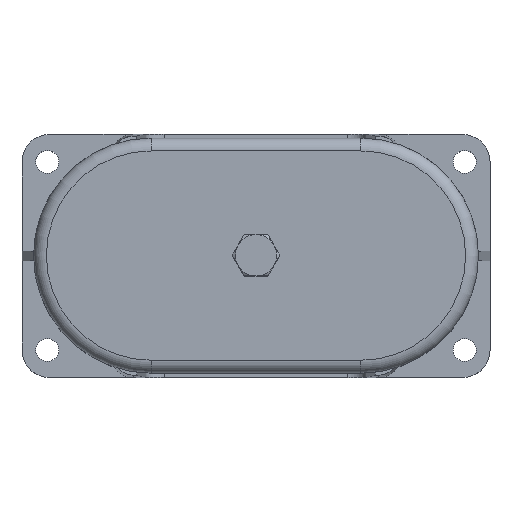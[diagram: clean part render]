
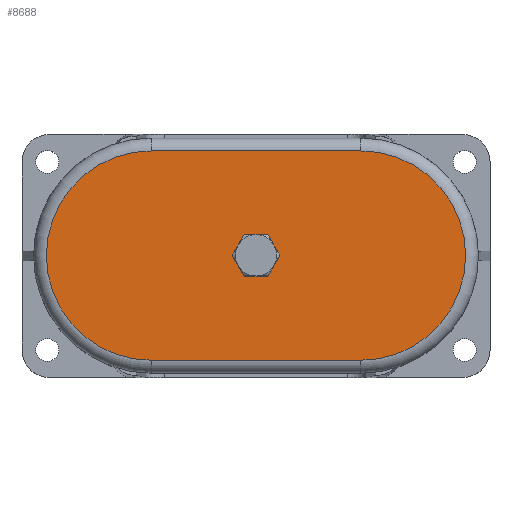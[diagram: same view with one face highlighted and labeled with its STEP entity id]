
A CAD part, top view. The second image highlights one B-rep face of the part: STEP entity #8688.
In plain terms, the highlighted planar face has unit normal (0, 0, 1).
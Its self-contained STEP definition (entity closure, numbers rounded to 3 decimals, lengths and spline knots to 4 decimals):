
#120=FACE_BOUND('',#1239,.T.);
#744=FACE_OUTER_BOUND('',#1238,.T.);
#1238=EDGE_LOOP('',(#5909,#5910,#5911,#5912));
#1239=EDGE_LOOP('',(#5913,#5914,#5915,#5916,#5917,#5918));
#1749=LINE('',#35098,#2417);
#1750=LINE('',#35101,#2418);
#2417=VECTOR('',#10152,5.7188);
#2418=VECTOR('',#10155,5.7188);
#3031=CIRCLE('',#9194,0.5625);
#3032=CIRCLE('',#9196,0.5625);
#3033=CIRCLE('',#9198,0.5625);
#3034=CIRCLE('',#9200,0.5625);
#3035=CIRCLE('',#9202,0.5625);
#3036=CIRCLE('',#9204,0.5625);
#3037=CIRCLE('',#9212,2.8515);
#3038=CIRCLE('',#9213,2.8515);
#3448=VERTEX_POINT('',#35023);
#3449=VERTEX_POINT('',#35027);
#3450=VERTEX_POINT('',#35033);
#3453=VERTEX_POINT('',#35044);
#3455=VERTEX_POINT('',#35054);
#3456=VERTEX_POINT('',#35063);
#3459=VERTEX_POINT('',#35094);
#3460=VERTEX_POINT('',#35095);
#3461=VERTEX_POINT('',#35097);
#3462=VERTEX_POINT('',#35099);
#4369=EDGE_CURVE('',#3448,#3449,#3031,.T.);
#4371=EDGE_CURVE('',#3449,#3450,#3032,.T.);
#4375=EDGE_CURVE('',#3453,#3448,#3033,.T.);
#4378=EDGE_CURVE('',#3455,#3453,#3034,.T.);
#4380=EDGE_CURVE('',#3450,#3456,#3035,.T.);
#4383=EDGE_CURVE('',#3456,#3455,#3036,.T.);
#4391=EDGE_CURVE('',#3459,#3460,#3037,.T.);
#4392=EDGE_CURVE('',#3461,#3459,#1749,.T.);
#4393=EDGE_CURVE('',#3462,#3461,#3038,.T.);
#4394=EDGE_CURVE('',#3460,#3462,#1750,.T.);
#5909=ORIENTED_EDGE('',*,*,#4391,.F.);
#5910=ORIENTED_EDGE('',*,*,#4392,.F.);
#5911=ORIENTED_EDGE('',*,*,#4393,.F.);
#5912=ORIENTED_EDGE('',*,*,#4394,.F.);
#5913=ORIENTED_EDGE('',*,*,#4369,.T.);
#5914=ORIENTED_EDGE('',*,*,#4371,.T.);
#5915=ORIENTED_EDGE('',*,*,#4380,.T.);
#5916=ORIENTED_EDGE('',*,*,#4383,.T.);
#5917=ORIENTED_EDGE('',*,*,#4378,.T.);
#5918=ORIENTED_EDGE('',*,*,#4375,.T.);
#7854=PLANE('',#9211);
#8688=ADVANCED_FACE('',(#744,#120),#7854,.T.);
#9194=AXIS2_PLACEMENT_3D('',#35031,#10108,#10109);
#9196=AXIS2_PLACEMENT_3D('',#35038,#10112,#10113);
#9198=AXIS2_PLACEMENT_3D('',#35051,#10116,#10117);
#9200=AXIS2_PLACEMENT_3D('',#35061,#10120,#10121);
#9202=AXIS2_PLACEMENT_3D('',#35068,#10124,#10125);
#9204=AXIS2_PLACEMENT_3D('',#35077,#10128,#10129);
#9211=AXIS2_PLACEMENT_3D('',#35093,#10148,#10149);
#9212=AXIS2_PLACEMENT_3D('',#35096,#10150,#10151);
#9213=AXIS2_PLACEMENT_3D('',#35100,#10153,#10154);
#10108=DIRECTION('center_axis',(0.,0.,
-1.));
#10109=DIRECTION('ref_axis',(-1.,0.,0.));
#10112=DIRECTION('center_axis',(0.,0.,
-1.));
#10113=DIRECTION('ref_axis',(-1.,0.,0.));
#10116=DIRECTION('center_axis',(0.,0.,
-1.));
#10117=DIRECTION('ref_axis',(-1.,0.,0.));
#10120=DIRECTION('center_axis',(0.,0.,
-1.));
#10121=DIRECTION('ref_axis',(-1.,0.,0.));
#10124=DIRECTION('center_axis',(0.,0.,
-1.));
#10125=DIRECTION('ref_axis',(-1.,0.,0.));
#10128=DIRECTION('center_axis',(0.,0.,
-1.));
#10129=DIRECTION('ref_axis',(-1.,0.,0.));
#10148=DIRECTION('center_axis',(0.,0.,
1.));
#10149=DIRECTION('ref_axis',(1.,0.,0.));
#10150=DIRECTION('center_axis',(0.,0.,
-1.));
#10151=DIRECTION('ref_axis',(1.,0.,0.));
#10152=DIRECTION('',(1.,0.,0.));
#10153=DIRECTION('center_axis',(0.,0.,
-1.));
#10154=DIRECTION('ref_axis',(-1.,0.,0.));
#10155=DIRECTION('',(-1.,0.,0.));
#35023=CARTESIAN_POINT('',(0.4871,0.2813,6.875));
#35027=CARTESIAN_POINT('',(0.4871,-0.2813,6.875));
#35031=CARTESIAN_POINT('Origin',(0.,0.,
6.875));
#35033=CARTESIAN_POINT('',(0.,-0.5625,6.875));
#35038=CARTESIAN_POINT('Origin',(0.,0.,
6.875));
#35044=CARTESIAN_POINT('',(0.,0.5625,6.875));
#35051=CARTESIAN_POINT('Origin',(0.,0.,
6.875));
#35054=CARTESIAN_POINT('',(-0.4871,0.2813,6.875));
#35061=CARTESIAN_POINT('Origin',(0.,0.,
6.875));
#35063=CARTESIAN_POINT('',(-0.4871,-0.2812,6.875));
#35068=CARTESIAN_POINT('Origin',(0.,0.,
6.875));
#35077=CARTESIAN_POINT('Origin',(0.,0.,
6.875));
#35093=CARTESIAN_POINT('Origin',(0.,0.,
6.875));
#35094=CARTESIAN_POINT('',(2.8594,2.8515,6.875));
#35095=CARTESIAN_POINT('',(2.8594,-2.8515,6.875));
#35096=CARTESIAN_POINT('Origin',(2.8594,0.,6.875));
#35097=CARTESIAN_POINT('',(-2.8594,2.8515,6.875));
#35098=CARTESIAN_POINT('',(1.4297,2.8515,6.875));
#35099=CARTESIAN_POINT('',(-2.8594,-2.8515,6.875));
#35100=CARTESIAN_POINT('Origin',(-2.8594,0.,6.875));
#35101=CARTESIAN_POINT('',(-1.4297,-2.8515,6.875));
